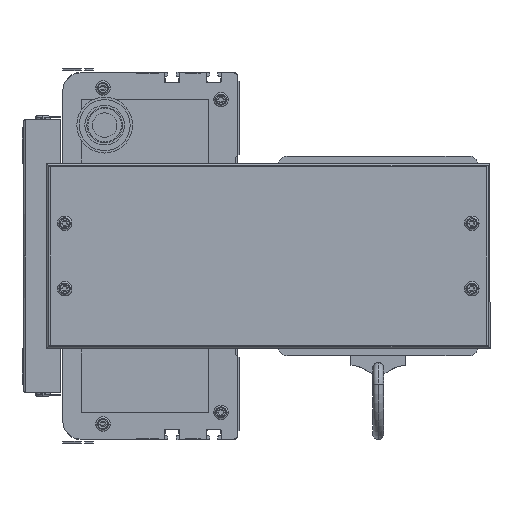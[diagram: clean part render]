
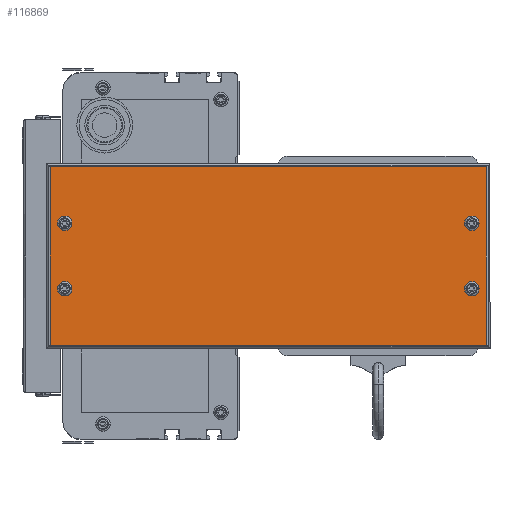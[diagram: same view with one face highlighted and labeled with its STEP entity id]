
A CAD part, left-side view. The second image highlights one B-rep face of the part: STEP entity #116869.
In plain terms, the highlighted planar face has unit normal (-1, 0, 0) as drawn and (1, 0, 0) by its records, which use the part's own axes.
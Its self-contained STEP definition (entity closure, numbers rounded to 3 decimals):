
#46860 = FACE_OUTER_BOUND ( 'NONE', #116957, .T. ) ;
#46866 = CARTESIAN_POINT ( 'NONE',  ( 50., 234., -30.5 ) ) ;
#46917 = CARTESIAN_POINT ( 'NONE',  ( 50., 242., -2. ) ) ;
#46929 = DIRECTION ( 'NONE',  ( 0., 0., -1. ) ) ;
#46941 = DIRECTION ( 'NONE',  ( 0., 0., 1. ) ) ;
#46943 = DIRECTION ( 'NONE',  ( -1., 0., 0. ) ) ;
#46945 = VECTOR ( 'NONE', #46929, 1000. ) ;
#46947 = CARTESIAN_POINT ( 'NONE',  ( 50., 2., 0. ) ) ;
#46972 = LINE ( 'NONE', #46947, #46945 ) ;
#46979 = FACE_BOUND ( 'NONE', #116867, .T. ) ;
#46987 = FACE_BOUND ( 'NONE', #116923, .T. ) ;
#46994 = FACE_BOUND ( 'NONE', #116603, .T. ) ;
#46997 = PLANE ( 'NONE',  #47006 ) ;
#47006 = AXIS2_PLACEMENT_3D ( 'NONE', #47011, #46943, #46941 ) ;
#47011 = CARTESIAN_POINT ( 'NONE',  ( 50., 244., 0. ) ) ;
#47013 = FACE_BOUND ( 'NONE', #116969, .T. ) ;
#47042 = DIRECTION ( 'NONE',  ( 0., 0., 1. ) ) ;
#47045 = VECTOR ( 'NONE', #47042, 1000. ) ;
#47046 = CARTESIAN_POINT ( 'NONE',  ( 50., 242., 0. ) ) ;
#47049 = LINE ( 'NONE', #47046, #47045 ) ;
#47056 = CARTESIAN_POINT ( 'NONE',  ( 50., 10., -33. ) ) ;
#47061 = DIRECTION ( 'NONE',  ( 0., 1., 0. ) ) ;
#47062 = VECTOR ( 'NONE', #47061, 1000. ) ;
#47071 = CARTESIAN_POINT ( 'NONE',  ( 50., 10., -69. ) ) ;
#47073 = CARTESIAN_POINT ( 'NONE',  ( 50., 244., -100. ) ) ;
#47076 = LINE ( 'NONE', #47073, #47062 ) ;
#47084 = DIRECTION ( 'NONE',  ( 0., -1., 0. ) ) ;
#47086 = VECTOR ( 'NONE', #47084, 1000. ) ;
#47090 = CARTESIAN_POINT ( 'NONE',  ( 50., 244., -2. ) ) ;
#47092 = AXIS2_PLACEMENT_3D ( 'NONE', #47071, #47274, #47273 ) ;
#47094 = LINE ( 'NONE', #47090, #47086 ) ;
#47101 = CIRCLE ( 'NONE', #47092, 2.5 ) ;
#47125 = CARTESIAN_POINT ( 'NONE',  ( 50., 2., -2. ) ) ;
#47174 = CIRCLE ( 'NONE', #47185, 2.5 ) ;
#47185 = AXIS2_PLACEMENT_3D ( 'NONE', #47394, #47391, #47390 ) ;
#47204 = DIRECTION ( 'NONE',  ( 0., 0., -1. ) ) ;
#47211 = CARTESIAN_POINT ( 'NONE',  ( 50., 242., -100. ) ) ;
#47214 = CARTESIAN_POINT ( 'NONE',  ( 50., 234., -66.5 ) ) ;
#47220 = CIRCLE ( 'NONE', #47235, 2.5 ) ;
#47235 = AXIS2_PLACEMENT_3D ( 'NONE', #47056, #47238, #47204 ) ;
#47238 = DIRECTION ( 'NONE',  ( 1., 0., 0. ) ) ;
#47257 = CARTESIAN_POINT ( 'NONE',  ( 50., 2., -100. ) ) ;
#47273 = DIRECTION ( 'NONE',  ( 0., 0., -1. ) ) ;
#47274 = DIRECTION ( 'NONE',  ( 1., 0., 0. ) ) ;
#47390 = DIRECTION ( 'NONE',  ( 0., 0., -1. ) ) ;
#47391 = DIRECTION ( 'NONE',  ( 1., 0., 0. ) ) ;
#47394 = CARTESIAN_POINT ( 'NONE',  ( 50., 234., -69. ) ) ;
#47494 = DIRECTION ( 'NONE',  ( 0., 0., -1. ) ) ;
#47496 = DIRECTION ( 'NONE',  ( 1., 0., 0. ) ) ;
#47498 = CARTESIAN_POINT ( 'NONE',  ( 50., 234., -69. ) ) ;
#47516 = AXIS2_PLACEMENT_3D ( 'NONE', #47498, #47496, #47494 ) ;
#47519 = CIRCLE ( 'NONE', #47516, 2.5 ) ;
#87749 = CARTESIAN_POINT ( 'NONE',  ( 50., 10., -35.5 ) ) ;
#107553 = CARTESIAN_POINT ( 'NONE',  ( 50., 10., -33. ) ) ;
#107555 = CARTESIAN_POINT ( 'NONE',  ( 50., 10., -30.5 ) ) ;
#107577 = CIRCLE ( 'NONE', #107682, 2.5 ) ;
#107582 = DIRECTION ( 'NONE',  ( 1., 0., 0. ) ) ;
#107612 = CARTESIAN_POINT ( 'NONE',  ( 50., 10., -66.5 ) ) ;
#107673 = DIRECTION ( 'NONE',  ( 0., 0., -1. ) ) ;
#107682 = AXIS2_PLACEMENT_3D ( 'NONE', #107553, #107582, #107673 ) ;
#109568 = VERTEX_POINT ( 'NONE', #87749 ) ;
#111209 = CARTESIAN_POINT ( 'NONE',  ( 50., 234., -71.5 ) ) ;
#111283 = CARTESIAN_POINT ( 'NONE',  ( 50., 10., -71.5 ) ) ;
#115960 = VERTEX_POINT ( 'NONE', #107612 ) ;
#115985 = EDGE_CURVE ( 'NONE', #115986, #109568, #107577, .T. ) ;
#115986 = VERTEX_POINT ( 'NONE', #107555 ) ;
#116585 = CIRCLE ( 'NONE', #116724, 2.5 ) ;
#116599 = ORIENTED_EDGE ( 'NONE', *, *, #116918, .F. ) ;
#116603 = EDGE_LOOP ( 'NONE', ( #117210, #117213 ) ) ;
#116605 = ORIENTED_EDGE ( 'NONE', *, *, #115985, .F. ) ;
#116606 = VERTEX_POINT ( 'NONE', #111209 ) ;
#116612 = ORIENTED_EDGE ( 'NONE', *, *, #117347, .F. ) ;
#116618 = VERTEX_POINT ( 'NONE', #111283 ) ;
#116687 = DIRECTION ( 'NONE',  ( 0., 0., -1. ) ) ;
#116701 = CARTESIAN_POINT ( 'NONE',  ( 50., 234., -35.5 ) ) ;
#116711 = CARTESIAN_POINT ( 'NONE',  ( 50., 234., -33. ) ) ;
#116724 = AXIS2_PLACEMENT_3D ( 'NONE', #116711, #116743, #116687 ) ;
#116743 = DIRECTION ( 'NONE',  ( 1., 0., 0. ) ) ;
#116764 = CARTESIAN_POINT ( 'NONE',  ( 50., 234., -33. ) ) ;
#116854 = VERTEX_POINT ( 'NONE', #46866 ) ;
#116859 = ORIENTED_EDGE ( 'NONE', *, *, #116917, .T. ) ;
#116867 = EDGE_LOOP ( 'NONE', ( #116599, #116612 ) ) ;
#116869 = ADVANCED_FACE ( 'NONE', ( #46860, #46979, #46987, #46994, #47013 ), #46997, .F. ) ;
#116870 = ORIENTED_EDGE ( 'NONE', *, *, #116897, .T. ) ;
#116872 = EDGE_CURVE ( 'NONE', #116891, #116939, #46972, .T. ) ;
#116874 = ORIENTED_EDGE ( 'NONE', *, *, #116948, .F. ) ;
#116888 = VERTEX_POINT ( 'NONE', #46917 ) ;
#116891 = VERTEX_POINT ( 'NONE', #47125 ) ;
#116897 = EDGE_CURVE ( 'NONE', #116888, #116891, #47094, .T. ) ;
#116901 = ORIENTED_EDGE ( 'NONE', *, *, #116872, .T. ) ;
#116904 = EDGE_CURVE ( 'NONE', #116939, #116954, #47076, .T. ) ;
#116906 = ORIENTED_EDGE ( 'NONE', *, *, #116904, .T. ) ;
#116912 = DIRECTION ( 'NONE',  ( 0., 0., -1. ) ) ;
#116915 = DIRECTION ( 'NONE',  ( 1., 0., 0. ) ) ;
#116917 = EDGE_CURVE ( 'NONE', #116954, #116888, #47049, .T. ) ;
#116918 = EDGE_CURVE ( 'NONE', #116618, #115960, #47101, .T. ) ;
#116923 = EDGE_LOOP ( 'NONE', ( #116874, #116605 ) ) ;
#116939 = VERTEX_POINT ( 'NONE', #47257 ) ;
#116948 = EDGE_CURVE ( 'NONE', #109568, #115986, #47220, .T. ) ;
#116949 = AXIS2_PLACEMENT_3D ( 'NONE', #116764, #116915, #116912 ) ;
#116952 = VERTEX_POINT ( 'NONE', #47214 ) ;
#116954 = VERTEX_POINT ( 'NONE', #47211 ) ;
#116957 = EDGE_LOOP ( 'NONE', ( #116870, #116901, #116906, #116859 ) ) ;
#116959 = CIRCLE ( 'NONE', #116949, 2.5 ) ;
#116969 = EDGE_LOOP ( 'NONE', ( #117300, #117215 ) ) ;
#116979 = DIRECTION ( 'NONE',  ( 0., 0., -1. ) ) ;
#116981 = DIRECTION ( 'NONE',  ( 1., 0., 0. ) ) ;
#116982 = AXIS2_PLACEMENT_3D ( 'NONE', #117034, #116981, #116979 ) ;
#116990 = EDGE_CURVE ( 'NONE', #116606, #116952, #47174, .T. ) ;
#117012 = CIRCLE ( 'NONE', #116982, 2.5 ) ;
#117034 = CARTESIAN_POINT ( 'NONE',  ( 50., 10., -69. ) ) ;
#117040 = EDGE_CURVE ( 'NONE', #116952, #116606, #47519, .T. ) ;
#117144 = EDGE_CURVE ( 'NONE', #116854, #117150, #116585, .T. ) ;
#117150 = VERTEX_POINT ( 'NONE', #116701 ) ;
#117210 = ORIENTED_EDGE ( 'NONE', *, *, #116990, .F. ) ;
#117213 = ORIENTED_EDGE ( 'NONE', *, *, #117040, .F. ) ;
#117215 = ORIENTED_EDGE ( 'NONE', *, *, #117144, .F. ) ;
#117251 = EDGE_CURVE ( 'NONE', #117150, #116854, #116959, .T. ) ;
#117300 = ORIENTED_EDGE ( 'NONE', *, *, #117251, .F. ) ;
#117347 = EDGE_CURVE ( 'NONE', #115960, #116618, #117012, .T. ) ;
